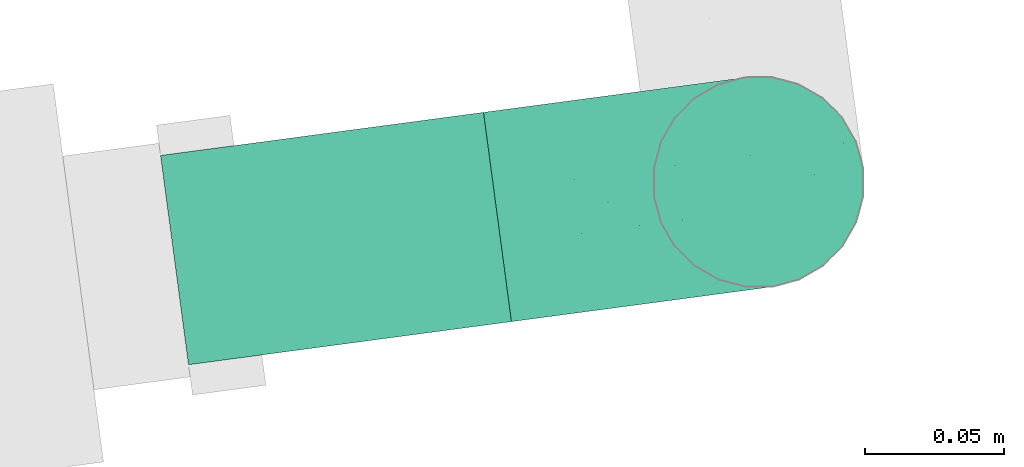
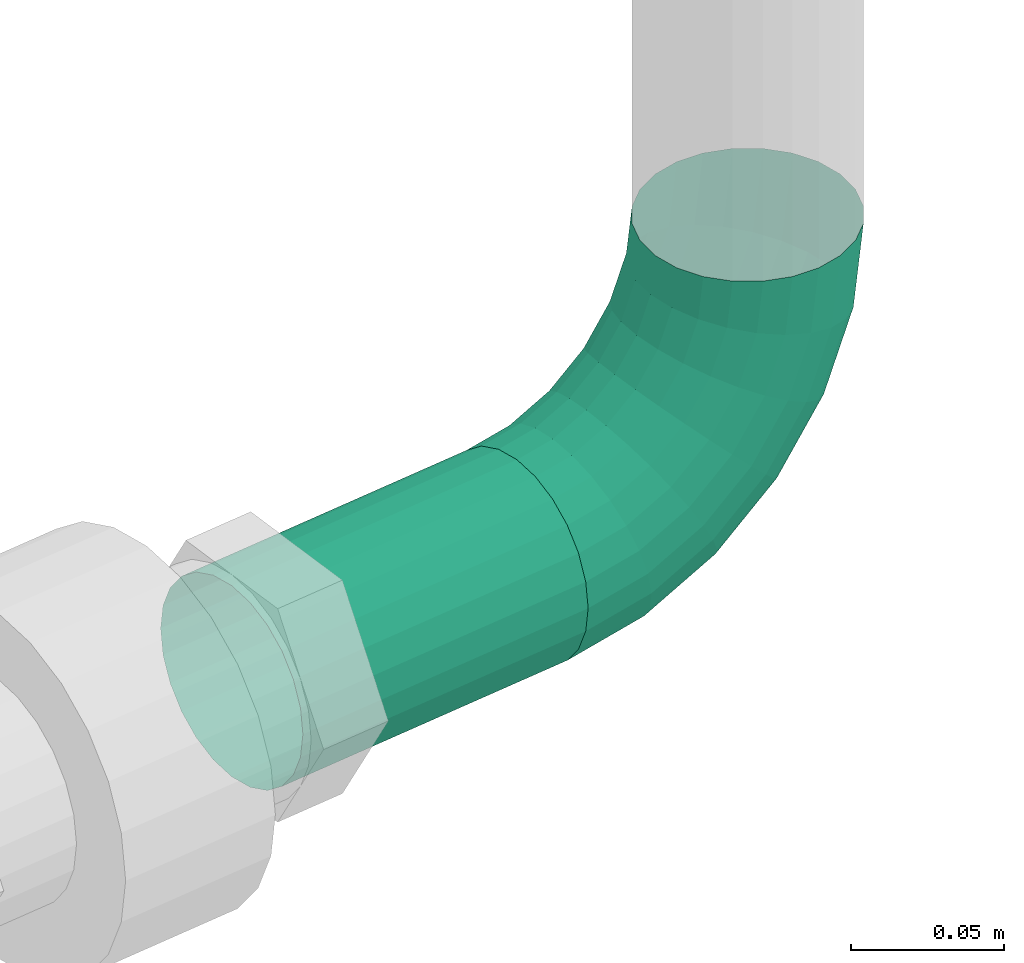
# One storey, part 333 of 374: 2 flow segments.
"""IFC2X3 building model written with IfcOpenShell, lengths in metres."""

from ifc_helpers import new_model, si_unit, direction, origin, place, context, subcontext, project, spatial, open_shell, surface_model, source, transform, mapped, element, save


model = new_model("IFC2X3")

# Units and contexts
model_context = context("Model", 3, precision=1e-05, world=origin(), true_north=direction((-0.4480736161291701, 0.8939966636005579)))
body_context = subcontext(model_context, "Body", "Model", "MODEL_VIEW")
ifc_project = project(units=[si_unit("LENGTHUNIT", "METRE"), si_unit("AREAUNIT", "SQUARE_METRE"), si_unit("VOLUMEUNIT", "CUBIC_METRE"), si_unit("PLANEANGLEUNIT", "RADIAN"), si_unit("THERMODYNAMICTEMPERATUREUNIT", "KELVIN"), si_unit("MASSUNIT", "GRAM", prefix="KILO"), si_unit("TIMEUNIT", "SECOND")], contexts=[model_context])

# Site, building, storey
site_placement = place(None, origin())
site = spatial("IfcSite", under=ifc_project, at=site_placement, Name="Site 1", CompositionType="ELEMENT")
building_placement = place(site_placement, origin())
building = spatial("IfcBuilding", under=site, at=building_placement, Name="Undefined", CompositionType="ELEMENT")
storey_placement = place(building_placement, origin())
storey = spatial("IfcBuildingStorey", under=building, at=storey_placement, Name="Rez de chauss\x8ee", CompositionType="ELEMENT", Elevation=0.0)

# Flow segments
shared_shape_1 = source(origin(), body_context, "Body", "SurfaceModel", [
    surface_model("IfcFaceBasedSurfaceModel", [(0.0, 0.009933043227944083, 0.0), (0.0, 0.0, 0.0), (0.1174332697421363, 0.0, -2.22044605e-16), (0.1174332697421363, 0.00993304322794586, -2.22044605e-16), (0.0, -0.009594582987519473, -0.002570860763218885), (0.11743326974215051, -0.009594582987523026, -0.002570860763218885), (0.0, -0.018196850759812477, -0.007537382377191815), (0.11743326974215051, -0.018196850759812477, -0.007537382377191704), (0.0, -0.025220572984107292, -0.014561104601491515), (0.11743326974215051, -0.02522057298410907, -0.014561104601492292), (1.4210854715e-14, -0.030187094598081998, -0.023163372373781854), (0.11743326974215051, -0.030187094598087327, -0.023163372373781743), (0.0, -0.03275795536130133, -0.032757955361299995), (0.11743326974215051, -0.03275795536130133, -0.032757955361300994), (1.4210854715e-14, -0.03275795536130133, -0.0426909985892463), (0.11743326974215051, -0.032757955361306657, -0.04269099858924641), (0.0, -0.030187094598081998, -0.052285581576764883), (0.11743326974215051, -0.030187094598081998, -0.05228558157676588), (0.0, -0.02522057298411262, -0.06088784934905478), (0.11743326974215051, -0.025220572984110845, -0.06088784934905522), (0.0, -0.0181968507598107, -0.06791157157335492), (0.11743326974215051, -0.018196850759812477, -0.06791157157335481), (0.0, -0.009594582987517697, -0.07287809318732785), (0.1174332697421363, -0.009594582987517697, -0.07287809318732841), (0.0, -3.552713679e-15, -0.07544895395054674), (0.1174332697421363, 1.776356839e-15, -0.07544895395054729), (0.0, 0.009933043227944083, -0.07544895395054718), (0.11743326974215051, 0.00993304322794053, -0.0754489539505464), (1.4210854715e-14, 0.019527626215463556, -0.07287809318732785), (0.11743326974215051, 0.019527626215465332, -0.07287809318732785), (0.0, 0.028129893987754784, -0.06791157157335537), (0.1174332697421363, 0.028129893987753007, -0.06791157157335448), (0.0, 0.03515361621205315, -0.06088784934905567), (0.1174332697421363, 0.035153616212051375, -0.060887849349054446), (0.0, 0.04012013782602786, -0.05228558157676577), (0.11743326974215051, 0.04012013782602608, -0.052285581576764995), (0.0, 0.04269099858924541, -0.04269099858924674), (0.1174332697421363, 0.04269099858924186, -0.04269099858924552), (0.0, 0.04269099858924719, -0.03275795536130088), (0.11743326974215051, 0.04269099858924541, -0.03275795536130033), (0.0, 0.04012013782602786, -0.0231633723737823), (0.1174332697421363, 0.040120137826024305, -0.023163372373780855), (0.0, 0.03515361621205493, -0.014561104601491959), (0.1174332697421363, 0.035153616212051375, -0.01456110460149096), (1.4210854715e-14, 0.028129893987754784, -0.007537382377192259), (0.11743326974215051, 0.028129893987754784, -0.007537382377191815), (7.105427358e-15, 0.019527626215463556, -0.0025708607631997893), (0.11743326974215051, 0.019527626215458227, -0.002570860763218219)], [open_shell([[[0, 1, 2, 3]], [[1, 4, 5, 2]], [[4, 6, 7, 5]], [[6, 8, 9, 7]], [[8, 10, 11, 9]], [[10, 12, 13, 11]], [[12, 14, 15, 13]], [[14, 16, 17, 15]], [[16, 18, 19, 17]], [[18, 20, 21, 19]], [[20, 22, 23, 21]], [[22, 24, 25, 23]], [[24, 26, 27, 25]], [[26, 28, 29, 27]], [[28, 30, 31, 29]], [[30, 32, 33, 31]], [[32, 34, 35, 33]], [[34, 36, 37, 35]], [[36, 38, 39, 37]], [[38, 40, 41, 39]], [[40, 42, 43, 41]], [[42, 44, 45, 43]], [[44, 46, 47, 45]], [[46, 0, 3, 47]]])]),
])
flow_segment_1_placement = place(storey_placement, origin())
element("IfcFlowSegment", 1, at=flow_segment_1_placement, inside=storey, Name="Tube acier d'après DIN 2448", ObjectType="Tube acier d'après DIN 2448", context=body_context, shape_type="MappedRepresentation", body=[
    mapped(shared_shape_1, transform((67.45378214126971, 20.52982207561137, 0.7371863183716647), x_axis=(0.9912155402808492, 0.13225639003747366, 0.0), y_axis=(-0.1311249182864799, 0.9827355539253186, 0.13052619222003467), z_axis=(0.01726292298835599, -0.12937959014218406, 0.9914448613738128))),
])
shared_shape_2 = source(origin(), body_context, "Body", "SurfaceModel", [
    surface_model("IfcFaceBasedSurfaceModel", [(0.034733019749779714, -1.776356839e-15, 1.776356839e-15), (0.03456378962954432, 0.009931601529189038, 5.329070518e-15), (0.00016923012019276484, 0.009931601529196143, 1.776356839e-15), (0.0, 0.0, 0.0), (-0.033053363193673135, 0.011083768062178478, -0.008827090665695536), (-0.03354952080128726, 0.001163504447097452, -0.00891395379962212), (-0.06283992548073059, 0.0133095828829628, -0.025879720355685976), (-0.06362919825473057, 0.003411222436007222, -0.02613439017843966), (-0.08716055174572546, 0.01645736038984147, -0.04999578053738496), (-0.08818915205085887, 0.0065899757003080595, -0.05048776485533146), (-0.10435783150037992, 0.02031258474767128, -0.07953180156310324), (-0.10555566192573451, 0.010483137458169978, -0.08031443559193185), (-0.11325979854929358, 0.024612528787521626, -0.11247495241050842), (-0.11454522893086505, 0.01482539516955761, -0.11358176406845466), (0.034067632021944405, 0.01951912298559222, -0.0025492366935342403), (0.0006653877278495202, 0.0195191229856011, -0.002549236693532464), (-0.031598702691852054, 0.02063804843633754, -0.011121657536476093), (-0.06052589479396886, 0.022799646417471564, -0.027682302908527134), (-0.08414484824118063, 0.025856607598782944, -0.05110259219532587), (-0.10084597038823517, 0.029600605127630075, -0.07978647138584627), (-0.10949110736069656, 0.03377649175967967, -0.11177918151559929), (0.03327835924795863, 0.02810919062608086, -0.00747398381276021), (0.001454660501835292, 0.028109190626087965, -0.0074739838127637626), (-0.029284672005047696, 0.02917523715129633, -0.015641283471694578), (-0.05684480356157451, 0.031234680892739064, -0.03141929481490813), (-0.07934755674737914, 0.034147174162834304, -0.05373277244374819), (-0.09525940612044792, 0.03771423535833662, -0.08106108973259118), (-0.10349598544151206, 0.04169277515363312, -0.11154186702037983), (0.0322497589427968, 0.035116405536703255, -0.014438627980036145), (0.002483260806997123, 0.035116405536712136, -0.014438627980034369), (-0.02626896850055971, 0.036113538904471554, -0.02207796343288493), (-0.05204751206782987, 0.03803985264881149, -0.03683602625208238), (-0.07309560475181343, 0.040764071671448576, -0.05770707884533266), (-0.08797885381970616, 0.04410054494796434, -0.08326879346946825), (-0.0956829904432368, 0.04782189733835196, -0.11177918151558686), (0.031051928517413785, 0.04006323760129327, -0.0229685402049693), (0.0036810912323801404, 0.04006323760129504, -0.022968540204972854), (-0.022757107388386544, 0.04098011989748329, -0.029993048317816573), (-0.04646094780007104, 0.04275140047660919, -0.04356335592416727), (-0.06581505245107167, 0.045256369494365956, -0.06275466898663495), (-0.07950047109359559, 0.04832431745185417, -0.08625913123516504), (-0.08658456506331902, 0.05174616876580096, -0.1124749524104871), (0.02976649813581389, 0.042612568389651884, -0.03248242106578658), (0.004966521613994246, 0.042612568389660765, -0.03248242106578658), (-0.018988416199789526, 0.04344333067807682, -0.038847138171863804), (-0.040465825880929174, 0.04504824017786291, -0.05114282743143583), (-0.058002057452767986, 0.047317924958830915, -0.0685315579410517), (-0.0704020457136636, 0.05009770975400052, -0.08982831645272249), (-0.07682075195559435, 0.05319815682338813, -0.11358176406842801), (0.028481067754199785, 0.042590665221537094, -0.0423319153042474), (0.0062519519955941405, 0.042590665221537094, -0.04233191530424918), (-0.015219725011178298, 0.04333530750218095, -0.04803684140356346), (-0.03447070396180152, 0.04477384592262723, -0.05905791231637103), (-0.050189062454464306, 0.04680824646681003, -0.07464406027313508), (-0.061303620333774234, 0.049299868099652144, -0.09373311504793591), (-0.06705693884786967, 0.052078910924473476, -0.11502418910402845), (0.027283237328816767, 0.03999902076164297, -0.05184579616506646), (0.007449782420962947, 0.039999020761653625, -0.051845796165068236), (-0.011707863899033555, 0.04066341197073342, -0.05693589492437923), (-0.028884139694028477, 0.04194691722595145, -0.06676921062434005), (-0.042908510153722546, 0.043762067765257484, -0.08067561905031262), (-0.052825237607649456, 0.04598516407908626, -0.0977074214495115), (-0.0579585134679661, 0.048464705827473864, -0.1167039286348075), (0.026254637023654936, 0.03501425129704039, -0.06037570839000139), (0.008478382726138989, 0.035014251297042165, -0.06037570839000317), (-0.008692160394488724, 0.03560972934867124, -0.06493784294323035), (-0.024086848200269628, 0.0367601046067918, -0.07375121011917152), (-0.03665655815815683, 0.038386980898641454, -0.08621519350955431), (-0.045544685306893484, 0.040379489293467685, -0.10148039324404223), (-0.05014551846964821, 0.042601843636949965, -0.1185065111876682), (0.025465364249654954, 0.0279760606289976, -0.0673403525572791), (0.00926765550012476, 0.027976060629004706, -0.06734035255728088), (-0.00637812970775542, 0.028518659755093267, -0.07149736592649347), (-0.02040575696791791, 0.029566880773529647, -0.07952809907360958), (-0.03185926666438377, 0.031049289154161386, -0.09088527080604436), (-0.03995812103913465, 0.03286486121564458, -0.1047949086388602), (-0.04415039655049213, 0.03488986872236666, -0.12030909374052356), (0.02496920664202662, 0.019364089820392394, -0.07226509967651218), (0.009763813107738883, 0.019364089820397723, -0.07226509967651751), (-0.004923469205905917, 0.019873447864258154, -0.07616744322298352), (-0.018091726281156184, 0.020857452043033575, -0.0837061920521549), (-0.028843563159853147, 0.022249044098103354, -0.0943675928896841), (-0.03644625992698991, 0.023953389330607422, -0.10742508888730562), (-0.040381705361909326, 0.025854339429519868, -0.12198883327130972), (0.024799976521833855, 0.009765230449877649, -0.07481433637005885), (0.00993304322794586, 0.009765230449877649, -0.0748143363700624), (-0.004427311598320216, 0.010263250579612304, -0.07862981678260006), (-0.01730245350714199, 0.011225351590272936, -0.08600075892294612), (-0.027814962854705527, 0.012585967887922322, -0.0964248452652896), (-0.035248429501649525, 0.014252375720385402, -0.10919169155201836), (-0.039096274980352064, 0.01611101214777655, -0.12343125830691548), (0.02496920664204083, -0.000166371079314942, -0.0748143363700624), (0.009763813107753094, -0.00016637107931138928, -0.07481433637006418), (-0.004923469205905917, 0.0003429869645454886, -0.07871667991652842), (-0.018091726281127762, 0.0013269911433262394, -0.0862554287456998), (-0.028843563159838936, 0.0027185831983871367, -0.09691682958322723), (-0.03644625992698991, 0.004422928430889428, -0.10997432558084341), (-0.04038170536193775, 0.006323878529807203, -0.12453806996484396), (0.025465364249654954, -0.009753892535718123, -0.07226509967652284), (0.00926765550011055, -0.00975389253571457, -0.07226509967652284), (-0.00637812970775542, -0.009211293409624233, -0.0764221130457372), (-0.02040575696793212, -0.008163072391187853, -0.08445284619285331), (-0.03185926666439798, -0.006680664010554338, -0.09581001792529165), (-0.03995812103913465, -0.004865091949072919, -0.10971965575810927), (-0.044150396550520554, -0.0028400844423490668, -0.1252338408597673), (0.026254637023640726, -0.018343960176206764, -0.06734035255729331), (0.008478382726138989, -0.018343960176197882, -0.06734035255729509), (-0.008692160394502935, -0.017748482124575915, -0.0719024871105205), (-0.02408684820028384, -0.016598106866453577, -0.08071585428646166), (-0.03665655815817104, -0.01497123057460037, -0.09317983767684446), (-0.045544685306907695, -0.012978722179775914, -0.10844503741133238), (-0.05014551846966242, -0.01075636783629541, -0.1254711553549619), (0.027283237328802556, -0.02535117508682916, -0.06037570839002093), (0.007449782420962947, -0.025351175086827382, -0.06037570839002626), (-0.011707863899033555, -0.02468678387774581, -0.0654658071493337), (-0.028884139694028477, -0.023403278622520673, -0.07529912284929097), (-0.042908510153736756, -0.021588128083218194, -0.08920553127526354), (-0.052825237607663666, -0.019365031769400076, -0.10623733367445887), (-0.05795851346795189, -0.01688549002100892, -0.12523384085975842), (0.028481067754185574, -0.030298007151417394, -0.051845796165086), (0.0062519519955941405, -0.030298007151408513, -0.051845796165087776), (-0.015219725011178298, -0.0295533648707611, -0.05755072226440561), (-0.03447070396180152, -0.02811482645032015, -0.06857179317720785), (-0.05018906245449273, -0.026080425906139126, -0.08415794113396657), (-0.061303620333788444, -0.023588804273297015, -0.10324699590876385), (-0.06705693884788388, -0.020809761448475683, -0.12453806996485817), (0.02976649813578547, -0.03284733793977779, -0.042331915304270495), (0.004966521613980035, -0.03284733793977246, -0.04233191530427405), (-0.018988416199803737, -0.03201657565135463, -0.04869663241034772), (-0.040465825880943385, -0.030411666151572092, -0.06099232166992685), (-0.058002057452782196, -0.02814198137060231, -0.07838105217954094), (-0.07040204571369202, -0.025362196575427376, -0.09967781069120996), (-0.07682075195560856, -0.02226174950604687, -0.12343125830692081), (0.031051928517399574, -0.03282543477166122, -0.0324824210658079), (0.0036810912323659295, -0.03282543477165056, -0.03248242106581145), (-0.022757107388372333, -0.03190855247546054, -0.03950692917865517), (-0.04646094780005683, -0.030137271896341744, -0.05307723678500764), (-0.06581505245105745, -0.027632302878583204, -0.07226854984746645), (-0.07950047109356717, -0.024564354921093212, -0.09577301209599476), (-0.08658456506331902, -0.021142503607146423, -0.12198883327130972), (0.03224975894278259, -0.03023379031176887, -0.022968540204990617), (0.002483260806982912, -0.03023379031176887, -0.022968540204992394), (-0.026268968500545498, -0.02923665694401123, -0.03060787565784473), (-0.05204751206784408, -0.02731034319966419, -0.04536593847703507), (-0.07309560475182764, -0.02458612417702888, -0.06623699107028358), (-0.08797885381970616, -0.021249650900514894, -0.09179870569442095), (-0.09568299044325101, -0.017528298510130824, -0.12030909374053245), (0.03327835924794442, -0.025249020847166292, -0.014438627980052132), (0.0014546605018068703, -0.02524902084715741, -0.014438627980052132), (-0.02928467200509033, -0.024182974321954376, -0.022605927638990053), (-0.05684480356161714, -0.022123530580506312, -0.03838393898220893), (-0.07934755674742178, -0.019211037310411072, -0.060697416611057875), (-0.09525940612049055, -0.015643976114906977, -0.08802573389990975), (-0.1034959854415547, -0.011665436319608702, -0.11850651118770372), (0.034067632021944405, -0.018210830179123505, -0.007473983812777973), (0.0006653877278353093, -0.018210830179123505, -0.007473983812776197), (-0.031598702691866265, -0.017091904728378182, -0.01604640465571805), (-0.06052589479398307, -0.014930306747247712, -0.03260705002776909), (-0.08414484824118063, -0.011873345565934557, -0.05602733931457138), (-0.10084597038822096, -0.008129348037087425, -0.08471121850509), (-0.10949110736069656, -0.003953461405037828, -0.11670392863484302), (0.03456378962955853, -0.009598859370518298, -0.0025492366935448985), (0.00016923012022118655, -0.009598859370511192, -0.002549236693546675), (-0.033053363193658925, -0.00844669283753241, -0.011376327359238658), (-0.06283992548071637, -0.0062208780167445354, -0.028428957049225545), (-0.08716055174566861, -0.003073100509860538, -0.05254501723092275), (-0.1043578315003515, 0.0007821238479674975, -0.08208103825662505), (-0.11325979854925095, 0.005082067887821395, -0.11502418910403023)], [open_shell([[[0, 1, 2, 3]], [[3, 2, 4, 5]], [[5, 4, 6, 7]], [[7, 6, 8, 9]], [[9, 8, 10, 11]], [[11, 10, 12, 13]], [[1, 14, 15, 2]], [[2, 15, 16, 4]], [[4, 16, 17, 6]], [[6, 17, 18, 8]], [[8, 18, 19, 10]], [[10, 19, 20, 12]], [[14, 21, 22, 15]], [[15, 22, 23, 16]], [[16, 23, 24, 17]], [[17, 24, 25, 18]], [[18, 25, 26, 19]], [[19, 26, 27, 20]], [[21, 28, 29, 22]], [[22, 29, 30, 23]], [[23, 30, 31, 24]], [[24, 31, 32, 25]], [[25, 32, 33, 26]], [[26, 33, 34, 27]], [[28, 35, 36, 29]], [[29, 36, 37, 30]], [[30, 37, 38, 31]], [[31, 38, 39, 32]], [[32, 39, 40, 33]], [[33, 40, 41, 34]], [[35, 42, 43, 36]], [[36, 43, 44, 37]], [[37, 44, 45, 38]], [[38, 45, 46, 39]], [[39, 46, 47, 40]], [[40, 47, 48, 41]], [[42, 49, 50, 43]], [[43, 50, 51, 44]], [[44, 51, 52, 45]], [[45, 52, 53, 46]], [[46, 53, 54, 47]], [[47, 54, 55, 48]], [[49, 56, 57, 50]], [[50, 57, 58, 51]], [[51, 58, 59, 52]], [[52, 59, 60, 53]], [[53, 60, 61, 54]], [[54, 61, 62, 55]], [[56, 63, 64, 57]], [[57, 64, 65, 58]], [[58, 65, 66, 59]], [[59, 66, 67, 60]], [[60, 67, 68, 61]], [[61, 68, 69, 62]], [[63, 70, 71, 64]], [[64, 71, 72, 65]], [[65, 72, 73, 66]], [[66, 73, 74, 67]], [[67, 74, 75, 68]], [[68, 75, 76, 69]], [[70, 77, 78, 71]], [[71, 78, 79, 72]], [[72, 79, 80, 73]], [[73, 80, 81, 74]], [[74, 81, 82, 75]], [[75, 82, 83, 76]], [[77, 84, 85, 78]], [[78, 85, 86, 79]], [[79, 86, 87, 80]], [[80, 87, 88, 81]], [[81, 88, 89, 82]], [[82, 89, 90, 83]], [[84, 91, 92, 85]], [[85, 92, 93, 86]], [[86, 93, 94, 87]], [[87, 94, 95, 88]], [[88, 95, 96, 89]], [[89, 96, 97, 90]], [[91, 98, 99, 92]], [[92, 99, 100, 93]], [[93, 100, 101, 94]], [[94, 101, 102, 95]], [[95, 102, 103, 96]], [[96, 103, 104, 97]], [[98, 105, 106, 99]], [[99, 106, 107, 100]], [[100, 107, 108, 101]], [[101, 108, 109, 102]], [[102, 109, 110, 103]], [[103, 110, 111, 104]], [[105, 112, 113, 106]], [[106, 113, 114, 107]], [[107, 114, 115, 108]], [[108, 115, 116, 109]], [[109, 116, 117, 110]], [[110, 117, 118, 111]], [[112, 119, 120, 113]], [[113, 120, 121, 114]], [[114, 121, 122, 115]], [[115, 122, 123, 116]], [[116, 123, 124, 117]], [[117, 124, 125, 118]], [[119, 126, 127, 120]], [[120, 127, 128, 121]], [[121, 128, 129, 122]], [[122, 129, 130, 123]], [[123, 130, 131, 124]], [[124, 131, 132, 125]], [[126, 133, 134, 127]], [[127, 134, 135, 128]], [[128, 135, 136, 129]], [[129, 136, 137, 130]], [[130, 137, 138, 131]], [[131, 138, 139, 132]], [[133, 140, 141, 134]], [[134, 141, 142, 135]], [[135, 142, 143, 136]], [[136, 143, 144, 137]], [[137, 144, 145, 138]], [[138, 145, 146, 139]], [[140, 147, 148, 141]], [[141, 148, 149, 142]], [[142, 149, 150, 143]], [[143, 150, 151, 144]], [[144, 151, 152, 145]], [[145, 152, 153, 146]], [[147, 154, 155, 148]], [[148, 155, 156, 149]], [[149, 156, 157, 150]], [[150, 157, 158, 151]], [[151, 158, 159, 152]], [[152, 159, 160, 153]], [[154, 161, 162, 155]], [[155, 162, 163, 156]], [[156, 163, 164, 157]], [[157, 164, 165, 158]], [[158, 165, 166, 159]], [[159, 166, 167, 160]], [[161, 0, 3, 162]], [[162, 3, 5, 163]], [[163, 5, 7, 164]], [[164, 7, 9, 165]], [[165, 9, 11, 166]], [[166, 11, 13, 167]]])]),
])
flow_segment_2_placement = place(storey_placement, origin())
element("IfcFlowSegment", 2, at=flow_segment_2_placement, inside=storey, Name="Tube coudé", ObjectType="Tube coudé", context=body_context, shape_type="MappedRepresentation", body=[
    mapped(shared_shape_2, transform((67.60301472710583, 20.55966929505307, 0.6669164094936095), x_axis=(-0.9827355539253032, -0.13112491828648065, -0.13052619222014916), y_axis=(-0.1478893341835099, 0.9806438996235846, 0.12832103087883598), z_axis=(0.1111736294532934, 0.14540907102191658, -0.9831056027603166))),
])

save(model, "model.ifc")
